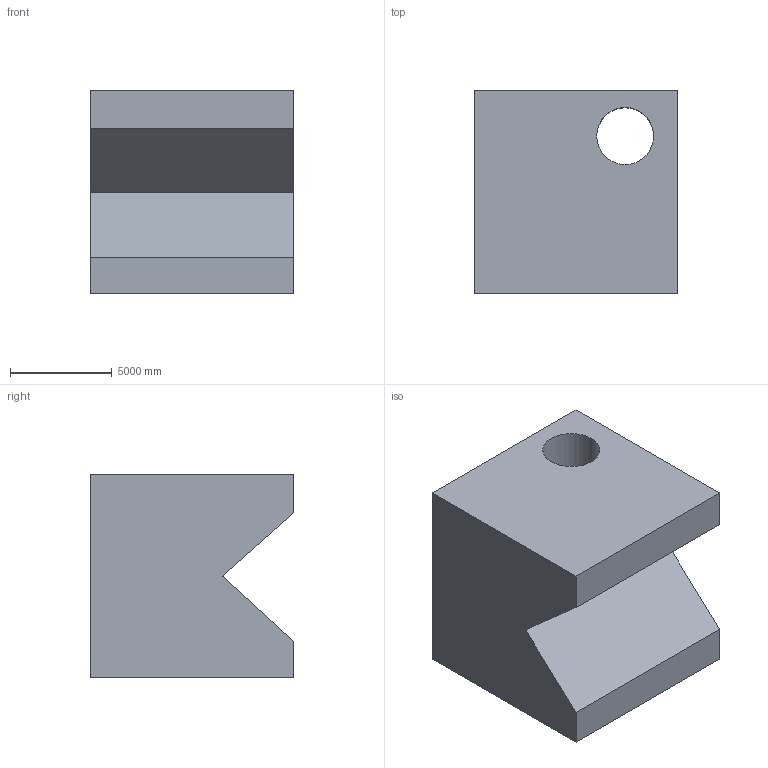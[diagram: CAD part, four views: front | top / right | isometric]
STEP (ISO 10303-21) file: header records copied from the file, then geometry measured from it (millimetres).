
FILE_DESCRIPTION (( 'STEP AP203' ), '1' );
FILE_NAME ('206.STEP', '2022-09-07T12:17:20', ( 'user' ), ( '' ), 'SwSTEP 2.0', 'SolidWorks 2021', '' );
FILE_SCHEMA (( 'CONFIG_CONTROL_DESIGN' ));
Length unit declared in the file: centimetre
Products named in the file (1): 206
Bounding box: 10000 x 10000 x 10000 mm (x, y, z)
Volume: 827794088867.6 mm3; surface area: 684763834.8 mm2
Topology: 1 solids, 1 shells, 11 faces, 27 edges, 18 vertices
Faces by surface type: plane 9, cylinder 2
Entity records: 406 total; most frequent: CARTESIAN_POINT 57, DIRECTION 55, ORIENTED_EDGE 54, EDGE_CURVE 27, VECTOR 23, LINE 23, VERTEX_POINT 18, AXIS2_PLACEMENT_3D 16
